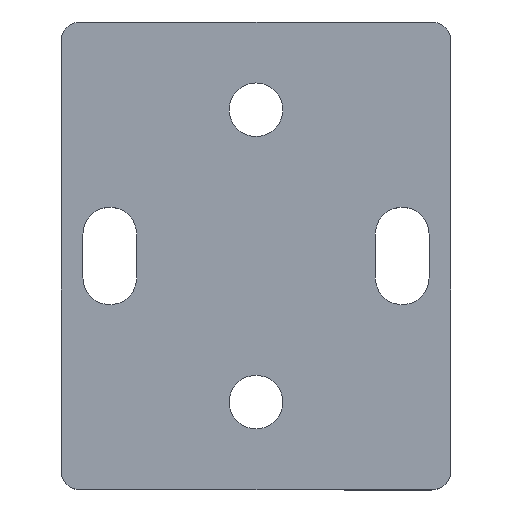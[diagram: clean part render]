
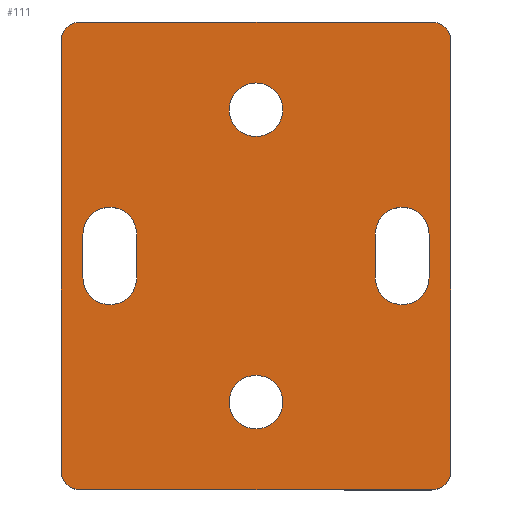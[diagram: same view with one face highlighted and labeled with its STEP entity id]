
A CAD part, top view. The second image highlights one B-rep face of the part: STEP entity #111.
In plain terms, the highlighted planar face has unit normal (0, 0, 1).
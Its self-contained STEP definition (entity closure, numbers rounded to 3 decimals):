
#111=ADVANCED_FACE('',(#333,#335,#337,#339,#341),#343,.T.);
#333=FACE_BOUND('',#334,.T.);
#334=EDGE_LOOP('',(#490,#491,#492,#493,#494,#495,#496,#497));
#335=FACE_BOUND('',#336,.T.);
#336=EDGE_LOOP('',(#498,#499,#500,#501));
#337=FACE_BOUND('',#338,.T.);
#338=EDGE_LOOP('',(#502,#503,#504,#505));
#339=FACE_BOUND('',#340,.T.);
#340=EDGE_LOOP('',(#506));
#341=FACE_BOUND('',#342,.T.);
#342=EDGE_LOOP('',(#507));
#343=PLANE('',#344);
#344=AXIS2_PLACEMENT_3D('',#345,#346,#347);
#345=CARTESIAN_POINT('',(0.,0.,8.));
#346=DIRECTION('',(0.,0.,1.));
#347=DIRECTION('',(-1.,0.,0.));
#490=ORIENTED_EDGE('',*,*,#596,.F.);
#491=ORIENTED_EDGE('',*,*,#597,.T.);
#492=ORIENTED_EDGE('',*,*,#598,.F.);
#493=ORIENTED_EDGE('',*,*,#599,.T.);
#494=ORIENTED_EDGE('',*,*,#600,.F.);
#495=ORIENTED_EDGE('',*,*,#601,.T.);
#496=ORIENTED_EDGE('',*,*,#602,.F.);
#497=ORIENTED_EDGE('',*,*,#603,.T.);
#498=ORIENTED_EDGE('',*,*,#604,.T.);
#499=ORIENTED_EDGE('',*,*,#605,.T.);
#500=ORIENTED_EDGE('',*,*,#606,.T.);
#501=ORIENTED_EDGE('',*,*,#607,.T.);
#502=ORIENTED_EDGE('',*,*,#608,.T.);
#503=ORIENTED_EDGE('',*,*,#609,.T.);
#504=ORIENTED_EDGE('',*,*,#610,.T.);
#505=ORIENTED_EDGE('',*,*,#611,.T.);
#506=ORIENTED_EDGE('',*,*,#572,.T.);
#507=ORIENTED_EDGE('',*,*,#574,.T.);
#572=EDGE_CURVE('',#628,#628,#629,.F.);
#574=EDGE_CURVE('',#632,#632,#633,.F.);
#596=EDGE_CURVE('',#676,#677,#678,.F.);
#597=EDGE_CURVE('',#676,#679,#680,.T.);
#598=EDGE_CURVE('',#681,#679,#682,.F.);
#599=EDGE_CURVE('',#681,#683,#684,.T.);
#600=EDGE_CURVE('',#685,#683,#686,.F.);
#601=EDGE_CURVE('',#685,#687,#688,.T.);
#602=EDGE_CURVE('',#689,#687,#690,.F.);
#603=EDGE_CURVE('',#689,#677,#691,.T.);
#604=EDGE_CURVE('',#692,#693,#694,.F.);
#605=EDGE_CURVE('',#693,#695,#696,.F.);
#606=EDGE_CURVE('',#695,#697,#698,.F.);
#607=EDGE_CURVE('',#697,#692,#699,.F.);
#608=EDGE_CURVE('',#700,#701,#702,.F.);
#609=EDGE_CURVE('',#701,#703,#704,.F.);
#610=EDGE_CURVE('',#703,#705,#706,.F.);
#611=EDGE_CURVE('',#705,#700,#707,.F.);
#628=VERTEX_POINT('',#724);
#629=CIRCLE('',#725,2.75);
#632=VERTEX_POINT('',#734);
#633=CIRCLE('',#735,2.75);
#676=VERTEX_POINT('',#836);
#677=VERTEX_POINT('',#837);
#678=CIRCLE('',#838,2.);
#679=VERTEX_POINT('',#842);
#680=LINE('',#843,#844);
#681=VERTEX_POINT('',#846);
#682=CIRCLE('',#847,2.);
#683=VERTEX_POINT('',#851);
#684=LINE('',#852,#853);
#685=VERTEX_POINT('',#855);
#686=CIRCLE('',#856,2.);
#687=VERTEX_POINT('',#860);
#688=LINE('',#861,#862);
#689=VERTEX_POINT('',#864);
#690=CIRCLE('',#865,2.);
#691=LINE('',#869,#870);
#692=VERTEX_POINT('',#872);
#693=VERTEX_POINT('',#873);
#694=LINE('',#874,#875);
#695=VERTEX_POINT('',#877);
#696=CIRCLE('',#878,2.75);
#697=VERTEX_POINT('',#882);
#698=LINE('',#883,#884);
#699=CIRCLE('',#886,2.75);
#700=VERTEX_POINT('',#890);
#701=VERTEX_POINT('',#891);
#702=LINE('',#892,#893);
#703=VERTEX_POINT('',#895);
#704=CIRCLE('',#896,2.75);
#705=VERTEX_POINT('',#900);
#706=LINE('',#901,#902);
#707=CIRCLE('',#904,2.75);
#724=CARTESIAN_POINT('',(-32.75,48.5,8.));
#725=AXIS2_PLACEMENT_3D('',#726,#727,#728);
#726=CARTESIAN_POINT('',(-30.,48.5,8.));
#727=DIRECTION('',(0.,0.,1.));
#728=DIRECTION('',(-1.,0.,0.));
#734=CARTESIAN_POINT('',(-32.75,18.5,8.));
#735=AXIS2_PLACEMENT_3D('',#736,#737,#738);
#736=CARTESIAN_POINT('',(-30.,18.5,8.));
#737=DIRECTION('',(0.,0.,1.));
#738=DIRECTION('',(-1.,0.,0.));
#836=CARTESIAN_POINT('',(-10.,11.5,8.));
#837=CARTESIAN_POINT('',(-12.,9.5,8.));
#838=AXIS2_PLACEMENT_3D('',#839,#840,#841);
#839=CARTESIAN_POINT('',(-12.,11.5,8.));
#840=DIRECTION('',(0.,0.,1.));
#841=DIRECTION('',(0.,-1.,0.));
#842=CARTESIAN_POINT('',(-10.,55.5,8.));
#843=CARTESIAN_POINT('',(-10.,11.5,8.));
#844=VECTOR('',#845,1.);
#845=DIRECTION('',(0.,1.,0.));
#846=CARTESIAN_POINT('',(-12.,57.5,8.));
#847=AXIS2_PLACEMENT_3D('',#848,#849,#850);
#848=CARTESIAN_POINT('',(-12.,55.5,8.));
#849=DIRECTION('',(0.,0.,1.));
#850=DIRECTION('',(1.,0.,0.));
#851=CARTESIAN_POINT('',(-48.,57.5,8.));
#852=CARTESIAN_POINT('',(-12.,57.5,8.));
#853=VECTOR('',#854,1.);
#854=DIRECTION('',(-1.,0.,0.));
#855=CARTESIAN_POINT('',(-50.,55.5,8.));
#856=AXIS2_PLACEMENT_3D('',#857,#858,#859);
#857=CARTESIAN_POINT('',(-48.,55.5,8.));
#858=DIRECTION('',(0.,0.,1.));
#859=DIRECTION('',(0.,1.,0.));
#860=CARTESIAN_POINT('',(-50.,11.5,8.));
#861=CARTESIAN_POINT('',(-50.,55.5,8.));
#862=VECTOR('',#863,1.);
#863=DIRECTION('',(0.,-1.,0.));
#864=CARTESIAN_POINT('',(-48.,9.5,8.));
#865=AXIS2_PLACEMENT_3D('',#866,#867,#868);
#866=CARTESIAN_POINT('',(-48.,11.5,8.));
#867=DIRECTION('',(0.,0.,1.));
#868=DIRECTION('',(-1.,0.,0.));
#869=CARTESIAN_POINT('',(-48.,9.5,8.));
#870=VECTOR('',#871,1.);
#871=DIRECTION('',(1.,0.,0.));
#872=CARTESIAN_POINT('',(-17.75,31.25,8.));
#873=CARTESIAN_POINT('',(-17.75,35.75,8.));
#874=CARTESIAN_POINT('',(-17.75,35.75,8.));
#875=VECTOR('',#876,1.);
#876=DIRECTION('',(0.,-1.,0.));
#877=CARTESIAN_POINT('',(-12.25,35.75,8.));
#878=AXIS2_PLACEMENT_3D('',#879,#880,#881);
#879=CARTESIAN_POINT('',(-15.,35.75,8.));
#880=DIRECTION('',(0.,0.,1.));
#881=DIRECTION('',(1.,0.,0.));
#882=CARTESIAN_POINT('',(-12.25,31.25,8.));
#883=CARTESIAN_POINT('',(-12.25,31.25,8.));
#884=VECTOR('',#885,1.);
#885=DIRECTION('',(0.,1.,0.));
#886=AXIS2_PLACEMENT_3D('',#887,#888,#889);
#887=CARTESIAN_POINT('',(-15.,31.25,8.));
#888=DIRECTION('',(0.,0.,1.));
#889=DIRECTION('',(-1.,0.,0.));
#890=CARTESIAN_POINT('',(-47.75,31.25,8.));
#891=CARTESIAN_POINT('',(-47.75,35.75,8.));
#892=CARTESIAN_POINT('',(-47.75,35.75,8.));
#893=VECTOR('',#894,1.);
#894=DIRECTION('',(0.,-1.,0.));
#895=CARTESIAN_POINT('',(-42.25,35.75,8.));
#896=AXIS2_PLACEMENT_3D('',#897,#898,#899);
#897=CARTESIAN_POINT('',(-45.,35.75,8.));
#898=DIRECTION('',(0.,0.,1.));
#899=DIRECTION('',(1.,0.,0.));
#900=CARTESIAN_POINT('',(-42.25,31.25,8.));
#901=CARTESIAN_POINT('',(-42.25,31.25,8.));
#902=VECTOR('',#903,1.);
#903=DIRECTION('',(0.,1.,0.));
#904=AXIS2_PLACEMENT_3D('',#905,#906,#907);
#905=CARTESIAN_POINT('',(-45.,31.25,8.));
#906=DIRECTION('',(0.,0.,1.));
#907=DIRECTION('',(-1.,0.,0.));
